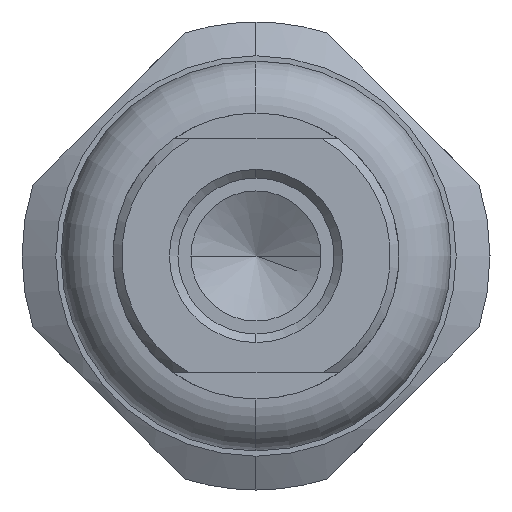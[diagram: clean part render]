
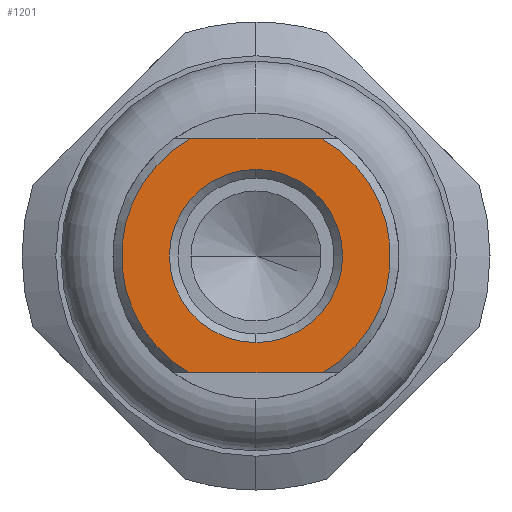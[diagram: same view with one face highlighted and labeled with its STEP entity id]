
A CAD part, left-side view. The second image highlights one B-rep face of the part: STEP entity #1201.
In plain terms, the highlighted planar face has unit normal (-1, 0, 0).
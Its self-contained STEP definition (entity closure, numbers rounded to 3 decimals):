
#1078 = VERTEX_POINT ( 'NONE', #4074 ) ;
#1131 = EDGE_CURVE ( 'NONE', #1132, #1078, #4170, .T. ) ;
#1132 = VERTEX_POINT ( 'NONE', #4165 ) ;
#1161 = EDGE_CURVE ( 'NONE', #1176, #1178, #4186, .T. ) ;
#1162 = ORIENTED_EDGE ( 'NONE', *, *, #1163, .T. ) ;
#1163 = EDGE_CURVE ( 'NONE', #1178, #1164, #4187, .T. ) ;
#1164 = VERTEX_POINT ( 'NONE', #4239 ) ;
#1165 = ORIENTED_EDGE ( 'NONE', *, *, #1166, .T. ) ;
#1166 = EDGE_CURVE ( 'NONE', #1164, #1175, #4238, .T. ) ;
#1173 = ORIENTED_EDGE ( 'NONE', *, *, #1174, .T. ) ;
#1174 = EDGE_CURVE ( 'NONE', #1175, #1176, #4223, .T. ) ;
#1175 = VERTEX_POINT ( 'NONE', #4219 ) ;
#1176 = VERTEX_POINT ( 'NONE', #4218 ) ;
#1177 = ORIENTED_EDGE ( 'NONE', *, *, #1161, .T. ) ;
#1178 = VERTEX_POINT ( 'NONE', #4217 ) ;
#1201 = ADVANCED_FACE ( 'NONE', ( #4305, #4304 ), #4303, .T. ) ;
#1202 = EDGE_LOOP ( 'NONE', ( #1203, #1204 ) ) ;
#1203 = ORIENTED_EDGE ( 'NONE', *, *, #1131, .T. ) ;
#1204 = ORIENTED_EDGE ( 'NONE', *, *, #1205, .T. ) ;
#1205 = EDGE_CURVE ( 'NONE', #1078, #1132, #4301, .T. ) ;
#1206 = EDGE_LOOP ( 'NONE', ( #1173, #1177, #1162, #1165 ) ) ;
#4074 = CARTESIAN_POINT ( 'NONE',  ( -31.75, 0., -3.33 ) ) ;
#4165 = CARTESIAN_POINT ( 'NONE',  ( -31.75, 0., 3.33 ) ) ;
#4166 = DIRECTION ( 'NONE',  ( 0., 0., 1. ) ) ;
#4167 = DIRECTION ( 'NONE',  ( 1., 0., 0. ) ) ;
#4168 = CARTESIAN_POINT ( 'NONE',  ( -31.75, 0., 0. ) ) ;
#4169 = AXIS2_PLACEMENT_3D ( 'NONE', #4168, #4167, #4166 ) ;
#4170 = CIRCLE ( 'NONE', #4169, 3.33 ) ;
#4183 = DIRECTION ( 'NONE',  ( -1., 0., 0. ) ) ;
#4184 = CARTESIAN_POINT ( 'NONE',  ( -31.75, 0., 0. ) ) ;
#4185 = AXIS2_PLACEMENT_3D ( 'NONE', #4184, #4183, #4243 ) ;
#4186 = CIRCLE ( 'NONE', #4185, 5.17 ) ;
#4187 = LINE ( 'NONE', #4242, #4241 ) ;
#4217 = CARTESIAN_POINT ( 'NONE',  ( -31.75, 2.545, -4.5 ) ) ;
#4218 = CARTESIAN_POINT ( 'NONE',  ( -31.75, 2.545, 4.5 ) ) ;
#4219 = CARTESIAN_POINT ( 'NONE',  ( -31.75, -2.545, 4.5 ) ) ;
#4220 = DIRECTION ( 'NONE',  ( 0., 1., 0. ) ) ;
#4221 = VECTOR ( 'NONE', #4220, 1000. ) ;
#4222 = CARTESIAN_POINT ( 'NONE',  ( -31.75, -5.5, 4.5 ) ) ;
#4223 = LINE ( 'NONE', #4222, #4221 ) ;
#4234 = DIRECTION ( 'NONE',  ( 0., 0., 1. ) ) ;
#4235 = DIRECTION ( 'NONE',  ( -1., 0., 0. ) ) ;
#4236 = CARTESIAN_POINT ( 'NONE',  ( -31.75, 0., 0. ) ) ;
#4237 = AXIS2_PLACEMENT_3D ( 'NONE', #4236, #4235, #4234 ) ;
#4238 = CIRCLE ( 'NONE', #4237, 5.17 ) ;
#4239 = CARTESIAN_POINT ( 'NONE',  ( -31.75, -2.545, -4.5 ) ) ;
#4240 = DIRECTION ( 'NONE',  ( 0., -1., 0. ) ) ;
#4241 = VECTOR ( 'NONE', #4240, 1000. ) ;
#4242 = CARTESIAN_POINT ( 'NONE',  ( -31.75, -5.5, -4.5 ) ) ;
#4243 = DIRECTION ( 'NONE',  ( 0., 0., 1. ) ) ;
#4293 = DIRECTION ( 'NONE',  ( 0., 0., 1. ) ) ;
#4294 = DIRECTION ( 'NONE',  ( 1., 0., 0. ) ) ;
#4295 = CARTESIAN_POINT ( 'NONE',  ( -31.75, 0., 0. ) ) ;
#4296 = AXIS2_PLACEMENT_3D ( 'NONE', #4295, #4294, #4293 ) ;
#4298 = DIRECTION ( 'NONE',  ( 0., 0., 1. ) ) ;
#4299 = DIRECTION ( 'NONE',  ( -1., 0., 0. ) ) ;
#4300 = CARTESIAN_POINT ( 'NONE',  ( -31.75, 0., 0. ) ) ;
#4301 = CIRCLE ( 'NONE', #4296, 3.33 ) ;
#4302 = AXIS2_PLACEMENT_3D ( 'NONE', #4300, #4299, #4298 ) ;
#4303 = PLANE ( 'NONE',  #4302 ) ;
#4304 = FACE_OUTER_BOUND ( 'NONE', #1206, .T. ) ;
#4305 = FACE_BOUND ( 'NONE', #1202, .T. ) ;
